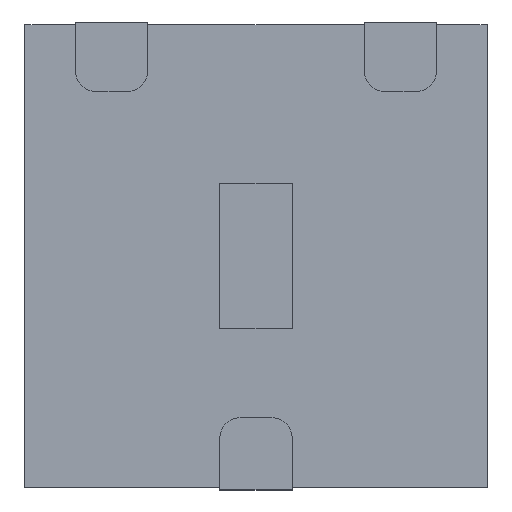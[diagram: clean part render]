
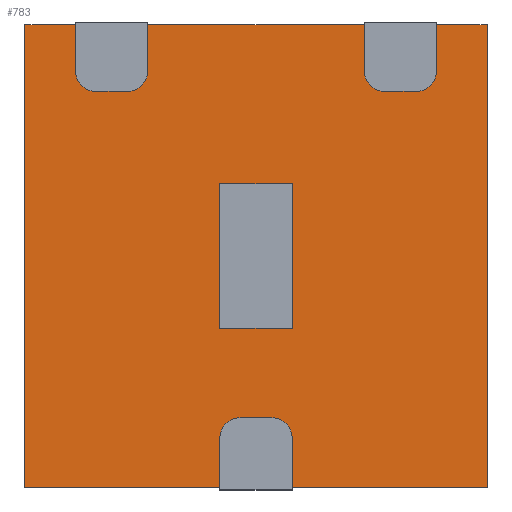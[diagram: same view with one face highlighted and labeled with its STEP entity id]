
A CAD part, top view. The second image highlights one B-rep face of the part: STEP entity #783.
In plain terms, the highlighted planar face has unit normal (0, 0, 1).
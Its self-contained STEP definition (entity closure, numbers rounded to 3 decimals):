
#15=FACE_BOUND('',#121,.T.);
#23=CIRCLE('',#794,0.07);
#25=CIRCLE('',#799,0.07);
#27=CIRCLE('',#806,0.07);
#29=CIRCLE('',#812,0.07);
#31=CIRCLE('',#819,0.07);
#33=CIRCLE('',#824,0.07);
#79=FACE_OUTER_BOUND('',#120,.T.);
#120=EDGE_LOOP('',(#684,#685,#686,#687,#688,#689,#690,#691,#692,#693,#694,
#695,#696,#697,#698,#699,#700,#701,#702,#703,#704,#705));
#121=EDGE_LOOP('',(#706,#707,#708,#709));
#134=LINE('',#1070,#230);
#139=LINE('',#1084,#235);
#144=LINE('',#1095,#240);
#153=LINE('',#1117,#249);
#158=LINE('',#1131,#254);
#166=LINE('',#1148,#262);
#172=LINE('',#1164,#268);
#184=LINE('',#1193,#280);
#189=LINE('',#1205,#285);
#191=LINE('',#1211,#287);
#195=LINE('',#1219,#291);
#198=LINE('',#1225,#294);
#201=LINE('',#1230,#297);
#203=LINE('',#1235,#299);
#207=LINE('',#1242,#303);
#208=LINE('',#1244,#304);
#209=LINE('',#1246,#305);
#213=LINE('',#1253,#309);
#214=LINE('',#1255,#310);
#216=LINE('',#1258,#312);
#230=VECTOR('',#865,0.11);
#235=VECTOR('',#878,0.17);
#240=VECTOR('',#885,0.17);
#249=VECTOR('',#908,0.11);
#254=VECTOR('',#921,0.16);
#262=VECTOR('',#933,0.16);
#268=VECTOR('',#951,0.16);
#280=VECTOR('',#975,0.16);
#285=VECTOR('',#988,0.11);
#287=VECTOR('',#994,0.25);
#291=VECTOR('',#1000,0.5);
#294=VECTOR('',#1005,0.25);
#297=VECTOR('',#1010,0.5);
#299=VECTOR('',#1016,0.675);
#303=VECTOR('',#1020,0.675);
#304=VECTOR('',#1023,0.75);
#305=VECTOR('',#1024,0.175);
#309=VECTOR('',#1028,0.175);
#310=VECTOR('',#1031,1.6);
#312=VECTOR('',#1035,1.6);
#322=VERTEX_POINT('',#1068);
#323=VERTEX_POINT('',#1069);
#326=VERTEX_POINT('',#1077);
#328=VERTEX_POINT('',#1083);
#332=VERTEX_POINT('',#1093);
#333=VERTEX_POINT('',#1094);
#338=VERTEX_POINT('',#1115);
#339=VERTEX_POINT('',#1116);
#342=VERTEX_POINT('',#1124);
#344=VERTEX_POINT('',#1130);
#350=VERTEX_POINT('',#1146);
#351=VERTEX_POINT('',#1147);
#354=VERTEX_POINT('',#1162);
#355=VERTEX_POINT('',#1163);
#362=VERTEX_POINT('',#1181);
#365=VERTEX_POINT('',#1191);
#366=VERTEX_POINT('',#1192);
#368=VERTEX_POINT('',#1199);
#370=VERTEX_POINT('',#1209);
#371=VERTEX_POINT('',#1210);
#374=VERTEX_POINT('',#1218);
#376=VERTEX_POINT('',#1224);
#378=VERTEX_POINT('',#1234);
#381=VERTEX_POINT('',#1240);
#382=VERTEX_POINT('',#1245);
#385=VERTEX_POINT('',#1251);
#398=EDGE_CURVE('',#322,#323,#134,.T.);
#402=EDGE_CURVE('',#326,#322,#23,.T.);
#405=EDGE_CURVE('',#328,#326,#139,.T.);
#410=EDGE_CURVE('',#332,#333,#144,.T.);
#416=EDGE_CURVE('',#323,#332,#25,.T.);
#421=EDGE_CURVE('',#338,#339,#153,.T.);
#425=EDGE_CURVE('',#342,#338,#27,.T.);
#428=EDGE_CURVE('',#344,#342,#158,.T.);
#436=EDGE_CURVE('',#350,#351,#166,.T.);
#441=EDGE_CURVE('',#339,#350,#29,.T.);
#444=EDGE_CURVE('',#354,#355,#172,.T.);
#453=EDGE_CURVE('',#355,#362,#31,.T.);
#458=EDGE_CURVE('',#365,#366,#184,.T.);
#462=EDGE_CURVE('',#368,#365,#33,.T.);
#465=EDGE_CURVE('',#362,#368,#189,.T.);
#467=EDGE_CURVE('',#370,#371,#191,.T.);
#471=EDGE_CURVE('',#374,#370,#195,.T.);
#474=EDGE_CURVE('',#376,#374,#198,.T.);
#477=EDGE_CURVE('',#371,#376,#201,.T.);
#479=EDGE_CURVE('',#328,#378,#203,.T.);
#483=EDGE_CURVE('',#381,#333,#207,.T.);
#484=EDGE_CURVE('',#344,#366,#208,.T.);
#485=EDGE_CURVE('',#354,#382,#209,.T.);
#489=EDGE_CURVE('',#385,#351,#213,.T.);
#490=EDGE_CURVE('',#378,#385,#214,.T.);
#492=EDGE_CURVE('',#382,#381,#216,.T.);
#684=ORIENTED_EDGE('',*,*,#410,.T.);
#685=ORIENTED_EDGE('',*,*,#483,.F.);
#686=ORIENTED_EDGE('',*,*,#492,.F.);
#687=ORIENTED_EDGE('',*,*,#485,.F.);
#688=ORIENTED_EDGE('',*,*,#444,.T.);
#689=ORIENTED_EDGE('',*,*,#453,.T.);
#690=ORIENTED_EDGE('',*,*,#465,.T.);
#691=ORIENTED_EDGE('',*,*,#462,.T.);
#692=ORIENTED_EDGE('',*,*,#458,.T.);
#693=ORIENTED_EDGE('',*,*,#484,.F.);
#694=ORIENTED_EDGE('',*,*,#428,.T.);
#695=ORIENTED_EDGE('',*,*,#425,.T.);
#696=ORIENTED_EDGE('',*,*,#421,.T.);
#697=ORIENTED_EDGE('',*,*,#441,.T.);
#698=ORIENTED_EDGE('',*,*,#436,.T.);
#699=ORIENTED_EDGE('',*,*,#489,.F.);
#700=ORIENTED_EDGE('',*,*,#490,.F.);
#701=ORIENTED_EDGE('',*,*,#479,.F.);
#702=ORIENTED_EDGE('',*,*,#405,.T.);
#703=ORIENTED_EDGE('',*,*,#402,.T.);
#704=ORIENTED_EDGE('',*,*,#398,.T.);
#705=ORIENTED_EDGE('',*,*,#416,.T.);
#706=ORIENTED_EDGE('',*,*,#471,.T.);
#707=ORIENTED_EDGE('',*,*,#467,.T.);
#708=ORIENTED_EDGE('',*,*,#477,.T.);
#709=ORIENTED_EDGE('',*,*,#474,.T.);
#743=PLANE('',#838);
#783=ADVANCED_FACE('',(#79,#15),#743,.T.);
#794=AXIS2_PLACEMENT_3D('',#1078,#871,#872);
#799=AXIS2_PLACEMENT_3D('',#1106,#893,#894);
#806=AXIS2_PLACEMENT_3D('',#1125,#914,#915);
#812=AXIS2_PLACEMENT_3D('',#1156,#940,#941);
#819=AXIS2_PLACEMENT_3D('',#1182,#964,#965);
#824=AXIS2_PLACEMENT_3D('',#1200,#981,#982);
#838=AXIS2_PLACEMENT_3D('',#1261,#1039,#1040);
#865=DIRECTION('',(1.,0.,0.));
#871=DIRECTION('center_axis',(0.,0.,-1.));
#872=DIRECTION('ref_axis',(0.,1.,0.));
#878=DIRECTION('',(0.,1.,0.));
#885=DIRECTION('',(0.,-1.,0.));
#893=DIRECTION('center_axis',(0.,0.,-1.));
#894=DIRECTION('ref_axis',(1.,0.,0.));
#908=DIRECTION('',(-1.,0.,0.));
#914=DIRECTION('center_axis',(0.,0.,-1.));
#915=DIRECTION('ref_axis',(0.,-1.,0.));
#921=DIRECTION('',(0.,-1.,0.));
#933=DIRECTION('',(0.,1.,0.));
#940=DIRECTION('center_axis',(0.,0.,-1.));
#941=DIRECTION('ref_axis',(-1.,0.,0.));
#951=DIRECTION('',(0.,-1.,0.));
#964=DIRECTION('center_axis',(0.,0.,-1.));
#965=DIRECTION('ref_axis',(0.,-1.,0.));
#975=DIRECTION('',(0.,1.,0.));
#981=DIRECTION('center_axis',(0.,0.,-1.));
#982=DIRECTION('ref_axis',(-1.,0.,0.));
#988=DIRECTION('',(-1.,0.,0.));
#994=DIRECTION('',(1.,0.,0.));
#1000=DIRECTION('',(0.,1.,0.));
#1005=DIRECTION('',(-1.,0.,0.));
#1010=DIRECTION('',(0.,-1.,0.));
#1016=DIRECTION('',(-1.,0.,0.));
#1020=DIRECTION('',(-1.,0.,0.));
#1023=DIRECTION('',(1.,0.,0.));
#1024=DIRECTION('',(1.,0.,0.));
#1028=DIRECTION('',(1.,0.,0.));
#1031=DIRECTION('',(0.,1.,0.));
#1035=DIRECTION('',(0.,-1.,0.));
#1039=DIRECTION('center_axis',(0.,0.,1.));
#1040=DIRECTION('ref_axis',(1.,0.,0.));
#1068=CARTESIAN_POINT('',(-0.055,-0.56,0.55));
#1069=CARTESIAN_POINT('',(0.055,-0.56,0.55));
#1070=CARTESIAN_POINT('',(0.028,-0.56,0.55));
#1077=CARTESIAN_POINT('',(-0.125,-0.63,0.55));
#1078=CARTESIAN_POINT('Origin',(-0.055,-0.63,0.55));
#1083=CARTESIAN_POINT('',(-0.125,-0.8,0.55));
#1084=CARTESIAN_POINT('',(-0.125,-0.315,0.55));
#1093=CARTESIAN_POINT('',(0.125,-0.63,0.55));
#1094=CARTESIAN_POINT('',(0.125,-0.8,0.55));
#1095=CARTESIAN_POINT('',(0.125,-0.405,0.55));
#1106=CARTESIAN_POINT('Origin',(0.055,-0.63,0.55));
#1115=CARTESIAN_POINT('',(-0.445,0.57,0.55));
#1116=CARTESIAN_POINT('',(-0.555,0.57,0.55));
#1117=CARTESIAN_POINT('',(-0.278,0.57,0.55));
#1124=CARTESIAN_POINT('',(-0.375,0.64,0.55));
#1125=CARTESIAN_POINT('Origin',(-0.445,0.64,0.55));
#1130=CARTESIAN_POINT('',(-0.375,0.8,0.55));
#1131=CARTESIAN_POINT('',(-0.375,0.32,0.55));
#1146=CARTESIAN_POINT('',(-0.625,0.64,0.55));
#1147=CARTESIAN_POINT('',(-0.625,0.8,0.55));
#1148=CARTESIAN_POINT('',(-0.625,0.405,0.55));
#1156=CARTESIAN_POINT('Origin',(-0.555,0.64,0.55));
#1162=CARTESIAN_POINT('',(0.625,0.8,0.55));
#1163=CARTESIAN_POINT('',(0.625,0.64,0.55));
#1164=CARTESIAN_POINT('',(0.625,0.32,0.55));
#1181=CARTESIAN_POINT('',(0.555,0.57,0.55));
#1182=CARTESIAN_POINT('Origin',(0.555,0.64,0.55));
#1191=CARTESIAN_POINT('',(0.375,0.64,0.55));
#1192=CARTESIAN_POINT('',(0.375,0.8,0.55));
#1193=CARTESIAN_POINT('',(0.375,0.405,0.55));
#1199=CARTESIAN_POINT('',(0.445,0.57,0.55));
#1200=CARTESIAN_POINT('Origin',(0.445,0.64,0.55));
#1205=CARTESIAN_POINT('',(0.223,0.57,0.55));
#1209=CARTESIAN_POINT('',(-0.125,0.25,0.55));
#1210=CARTESIAN_POINT('',(0.125,0.25,0.55));
#1211=CARTESIAN_POINT('',(0.063,0.25,0.55));
#1218=CARTESIAN_POINT('',(-0.125,-0.25,0.55));
#1219=CARTESIAN_POINT('',(-0.125,0.125,0.55));
#1224=CARTESIAN_POINT('',(0.125,-0.25,0.55));
#1225=CARTESIAN_POINT('',(-0.062,-0.25,0.55));
#1230=CARTESIAN_POINT('',(0.125,-0.125,0.55));
#1234=CARTESIAN_POINT('',(-0.8,-0.8,0.55));
#1235=CARTESIAN_POINT('',(-0.8,-0.8,0.55));
#1240=CARTESIAN_POINT('',(0.8,-0.8,0.55));
#1242=CARTESIAN_POINT('',(-0.8,-0.8,0.55));
#1244=CARTESIAN_POINT('',(0.8,0.8,0.55));
#1245=CARTESIAN_POINT('',(0.8,0.8,0.55));
#1246=CARTESIAN_POINT('',(0.8,0.8,0.55));
#1251=CARTESIAN_POINT('',(-0.8,0.8,0.55));
#1253=CARTESIAN_POINT('',(0.8,0.8,0.55));
#1255=CARTESIAN_POINT('',(-0.8,0.8,0.55));
#1258=CARTESIAN_POINT('',(0.8,-0.8,0.55));
#1261=CARTESIAN_POINT('Origin',(0.,0.,
0.55));
